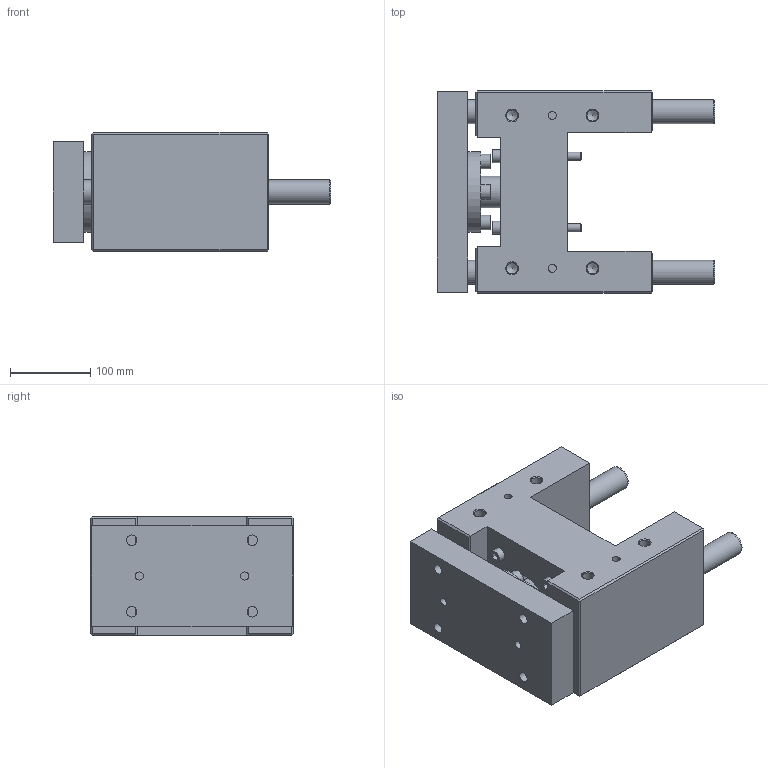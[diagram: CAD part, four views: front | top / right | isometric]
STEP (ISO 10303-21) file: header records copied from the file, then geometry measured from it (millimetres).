
FILE_DESCRIPTION( ( 'STEP AP214' ), '1' );
FILE_NAME( 'U:/Etudes/Top Solid/BIBLIO 3D AVM/TOP/PNEUMATIQUE/GUIDAGES/Type 32 (en H)/R_Renforcée/329R0230.step', '2005-05-27T09:23:46', ( ' ' ), ( ' ' ), 'XStep 1.0', ' ', ' ' );
FILE_SCHEMA( ( 'automotive_design' ) );
Length unit declared in the file: metre
Products named in the file (2): 1; 2
Bounding box: 345 x 252 x 148 mm (x, y, z)
Volume: 6410985.4 mm3; surface area: 519089.7 mm2
Topology: 2 solids, 7 shells, 239 faces, 527 edges, 341 vertices
Faces by surface type: plane 149, cylinder 69, cone 21
Full cylindrical faces by diameter (mm): 10 x12, 10.106 x4, 11 x4, 12 x8, 13 x8, 13.835 x8, 16 x4, 18 x4, 18.376 x2, 20 x4, 30 x4, 39 x1, 42 x1, 55 x1, 57 x1, 60 x1, 65 x1, 100 x1
Entity records: 7933 total; most frequent: CARTESIAN_POINT 1201, DIRECTION 1000, ORIENTED_EDGE 786, EDGE_CURVE 393, EDGE_LOOP 392, AXIS2_PLACEMENT_3D 374, FACE_OUTER_BOUND 308, VERTEX_POINT 303
